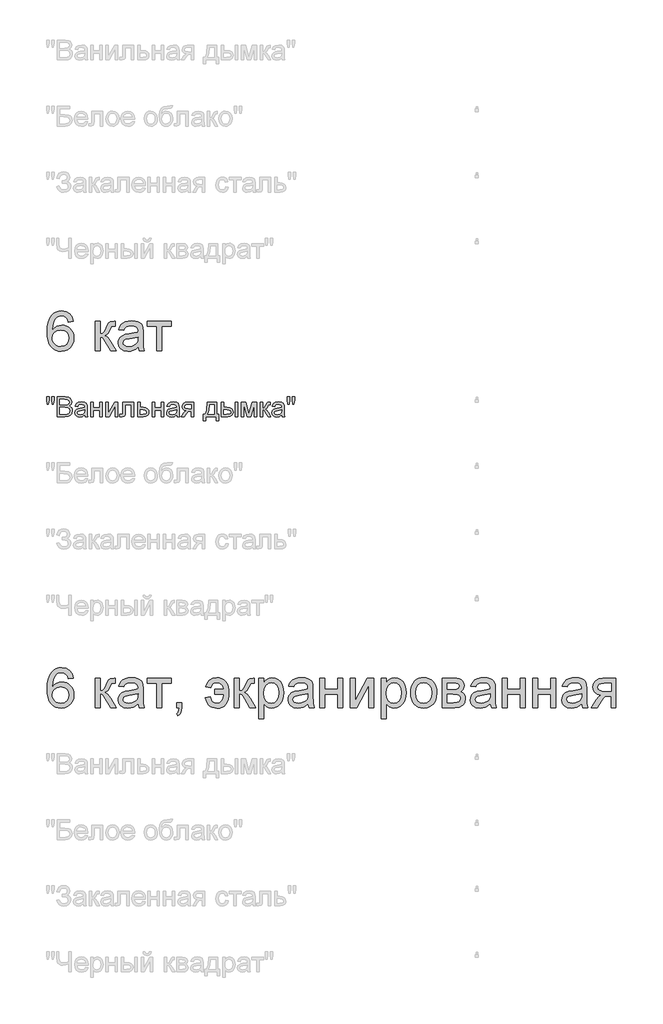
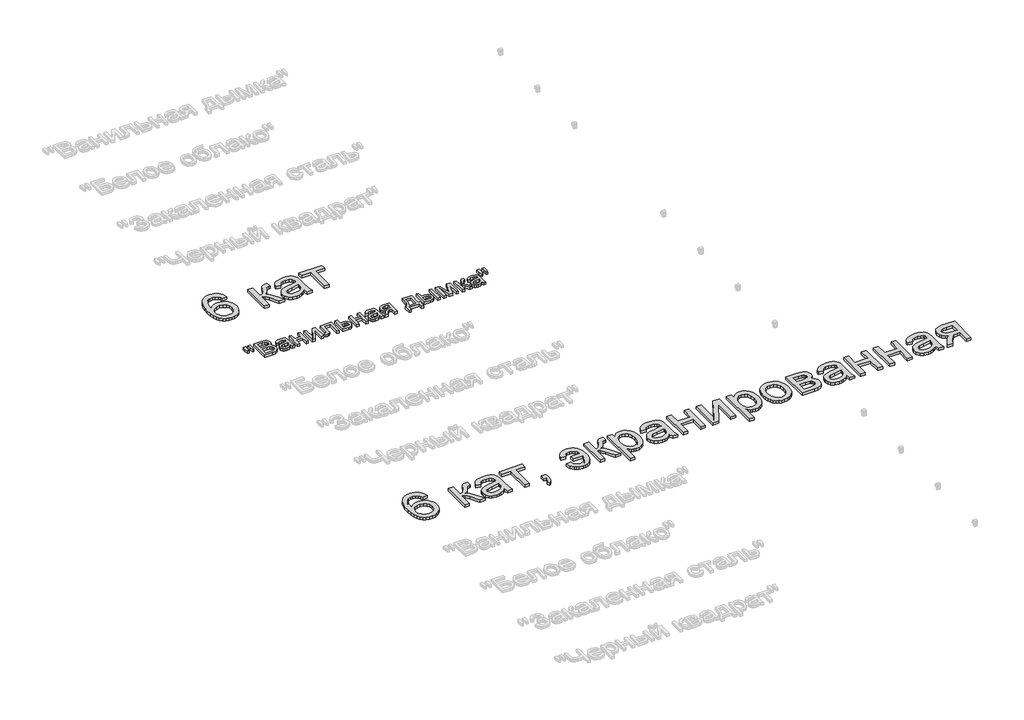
# One storey, part 73 of 168: 3 proxies.
"""IFC4 building model written with IfcOpenShell, lengths in millimetres."""

import ifcopenshell
import ifcopenshell.guid

model = None  # the IFC model being written
_history = None  # IfcOwnerHistory: only IFC2X3 demands one
_inside = {}  # id of a spatial element -> (the spatial element, [elements in it])
_under = {}  # id of a project, library or spatial element -> (it, [spatial elements below it])
_declared = {}  # id of a project -> (the project, [libraries it declares])
_typed = {}  # id of a type object -> (the type object, [elements of that type])
_made_of = {}  # id of a material, layer set ... -> (it, [elements and type objects made of it])


def new_model(schema):
    """Start an empty IFC model of exactly this schema.

    Asked for "IFC4X3", IfcOpenShell would pick the latest addendum, in which some entities
    have other attributes; the version numbers below select the first issue.
    IFC2X3 requires an IfcOwnerHistory on every rooted entity: one is made here for all.
    """
    global model, _history
    if schema == "IFC4X3":
        model = ifcopenshell.file(schema_version=(4, 3, 0, 0))
    else:
        model = ifcopenshell.file(schema=schema)
    _inside.clear()
    _under.clear()
    _declared.clear()
    _typed.clear()
    _made_of.clear()
    _history = None
    if model.schema == "IFC2X3":
        org = make("IfcOrganization", Name="unknown")
        user = make(
            "IfcPersonAndOrganization",
            ThePerson=make("IfcPerson", FamilyName="unknown"),
            TheOrganization=org,
        )
        app = make(
            "IfcApplication",
            ApplicationDeveloper=org,
            Version="unknown",
            ApplicationFullName="unknown",
            ApplicationIdentifier="unknown",
        )
        _history = make(
            "IfcOwnerHistory",
            OwningUser=user,
            OwningApplication=app,
            ChangeAction="ADDED",
            CreationDate=0,
        )
    return model


def make(cls, **values):
    """One entity of the class cls with the attributes given. An attribute that is None is left unset."""
    return model.create_entity(
        cls, **{name: value for name, value in values.items() if value is not None}
    )


def rooted(cls, **values):
    """An entity with a GlobalId (a new one), such as an element, a storey or a relation."""
    return make(cls, GlobalId=ifcopenshell.guid.new(), OwnerHistory=_history, **values)


def si_unit(unit_type, name, prefix=None):
    """IfcSIUnit, for example si_unit("LENGTHUNIT", "METRE", prefix="MILLI")."""
    return make("IfcSIUnit", UnitType=unit_type, Prefix=prefix, Name=name)


def assignment(units):
    """IfcUnitAssignment: the units of a project."""
    return None if units is None else make("IfcUnitAssignment", Units=units)


def point(xyz):
    """IfcCartesianPoint."""
    return None if xyz is None else make("IfcCartesianPoint", Coordinates=xyz)


def direction(xyz):
    """IfcDirection."""
    return None if xyz is None else make("IfcDirection", DirectionRatios=xyz)


def frame(location, z_axis=None, x_axis=None):
    """IfcAxis2Placement3D, a coordinate frame: its origin and axes. An axis left out is left unset."""
    return make(
        "IfcAxis2Placement3D",
        Location=point(location),
        Axis=direction(z_axis),
        RefDirection=direction(x_axis),
    )


def origin():
    """The frame at (0, 0, 0) with its axes left unset."""
    return frame((0.0, 0.0, 0.0))


def origin_with_axes():
    """The frame at (0, 0, 0) with the z axis (0, 0, 1) and the x axis (1, 0, 0) written out."""
    return frame((0.0, 0.0, 0.0), z_axis=(0.0, 0.0, 1.0), x_axis=(1.0, 0.0, 0.0))


def place(relative_to, where):
    """IfcLocalPlacement: puts the frame where relative to a parent placement (None: the world)."""
    return make(
        "IfcLocalPlacement", PlacementRelTo=relative_to, RelativePlacement=where
    )


def context(
    kind, dimensions, precision=None, world=None, true_north=None, identifier=None
):
    """IfcGeometricRepresentationContext, for example the 3D "Model" context."""
    return make(
        "IfcGeometricRepresentationContext",
        ContextIdentifier=identifier,
        ContextType=kind,
        CoordinateSpaceDimension=dimensions,
        Precision=precision,
        WorldCoordinateSystem=world,
        TrueNorth=true_north,
    )


def project(units=None, contexts=None):
    """IfcProject with its units and contexts."""
    return rooted(
        "IfcProject",
        Name="project",
        RepresentationContexts=contexts,
        UnitsInContext=assignment(units),
    )


def spatial(cls, under=None, at=None, **own):
    """A site, building, storey or space (cls), placed at a placement, below another one or the project."""
    s = rooted(cls, ObjectPlacement=at, **own)
    if under is not None:
        _under.setdefault(under.id(), (under, []))[1].append(s)
    return s


def polyline(points):
    """IfcPolyline through the points."""
    return make("IfcPolyline", Points=[point(p) for p in points])


def outline(outer, holes=None, kind="AREA"):
    """IfcArbitraryClosedProfileDef: a profile drawn as a closed curve; with holes, ...WithVoids."""
    if holes is None:
        return make("IfcArbitraryClosedProfileDef", ProfileType=kind, OuterCurve=outer)
    return make(
        "IfcArbitraryProfileDefWithVoids",
        ProfileType=kind,
        OuterCurve=outer,
        InnerCurves=holes,
    )


def extrude(swept, where, along, depth):
    """IfcExtrudedAreaSolid: the profile swept, set in the frame where, extruded along a direction by depth."""
    return make(
        "IfcExtrudedAreaSolid",
        SweptArea=swept,
        Position=where,
        ExtrudedDirection=direction(along),
        Depth=depth,
    )


def shape(context_of_items, identifier, shape_type, items):
    """IfcShapeRepresentation: the items that make up one representation, for example the "Body"."""
    return make(
        "IfcShapeRepresentation",
        ContextOfItems=context_of_items,
        RepresentationIdentifier=identifier,
        RepresentationType=shape_type,
        Items=items,
    )


def made_of(thing, what):
    """Note that an element or type object is made of a material, layer set ...; save() writes the relation."""
    if what is not None:
        _made_of.setdefault(what.id(), (what, []))[1].append(thing)
    return thing


def element(
    cls,
    number,
    at=None,
    inside=None,
    cuts=None,
    type_object=None,
    material=None,
    context=None,
    identifier="Body",
    shape_type=None,
    held_by="IfcProductDefinitionShape",
    body=None,
    shapes=None,
    **own,
):
    """One element of the class cls, such as IfcWall. Its Tag is "e" and its number.

    at: its placement. inside: the storey or other place that contains it. cuts: it is an
    opening in that element (IfcRelVoidsElement). A single representation is given by context,
    identifier, shape_type and body (its items); several are given by shapes. held_by: the class
    of the entity that holds the representations. save() writes the other relations.
    """
    e = rooted(cls, Tag="e%d" % number, ObjectPlacement=at, **own)
    if body is not None:
        shapes = [shape(context, identifier, shape_type, body)]
    if shapes is not None:
        e.Representation = make(held_by, Representations=shapes)
    if inside is not None:
        _inside.setdefault(inside.id(), (inside, []))[1].append(e)
    if cuts is not None:
        rooted(
            "IfcRelVoidsElement", RelatingBuildingElement=cuts, RelatedOpeningElement=e
        )
    if type_object is not None:
        _typed.setdefault(type_object.id(), (type_object, []))[1].append(e)
    return made_of(e, material)


def aggregate(whole, parts):
    """IfcRelAggregates: a whole, such as a stair, and the parts it consists of."""
    return rooted("IfcRelAggregates", RelatingObject=whole, RelatedObjects=parts)


def save(model, path):
    """Write the relations noted so far, then the file.

    IfcRelAggregates (storeys below a building ...), IfcRelContainedInSpatialStructure (elements
    in a storey), IfcRelDefinesByType, IfcRelAssociatesMaterial and IfcRelDeclares: one each for
    every whole, place, type object, material and project.
    """
    for whole, parts in _under.values():
        aggregate(whole, parts)
    for where, things in _inside.values():
        rooted(
            "IfcRelContainedInSpatialStructure",
            RelatedElements=things,
            RelatingStructure=where,
        )
    for kind, things in _typed.values():
        rooted("IfcRelDefinesByType", RelatedObjects=things, RelatingType=kind)
    for what, things in _made_of.values():
        rooted("IfcRelAssociatesMaterial", RelatedObjects=things, RelatingMaterial=what)
    for by, libraries in _declared.values():
        rooted("IfcRelDeclares", RelatingContext=by, RelatedDefinitions=libraries)
    model.write(path)


model = new_model("IFC4")

# Units and contexts
model_context = context("Model", 3, world=origin())
ifc_project = project(units=[si_unit("LENGTHUNIT", "METRE", prefix="MILLI")], contexts=[model_context])

# Site, building, storey
site = spatial("IfcSite", under=ifc_project)
building = spatial("IfcBuilding", under=site)
storey = spatial("IfcBuildingStorey", under=building, Name="Этаж 01", Elevation=0.0)

# Proxies
placement = place(None, origin())
element("IfcBuildingElementProxy", 1, Name="300 мм Arial 2", ObjectType="300 мм Arial 2", at=placement, inside=storey, context=model_context, shape_type="SweptSolid", body=[
    extrude(outline(polyline([(60378.0323041, -37145.5444894), (60340.3611878, -37150.253379), (60334.2911349, -37131.5833677), (60326.0873664, -37118.8362566), (60308.9992477, -37107.0824268), (60288.3426737, -37103.1644836), (60270.8314907, -37105.445352), (60254.3503773, -37112.2879571), (60240.1961176, -37126.6997342), (60228.6354259, -37146.5377708), (60220.8271305, -37174.59797), (60217.9300598, -37213.6762349), (60233.0408128, -37196.0454903), (60251.149804, -37183.6202759), (60271.245358, -37176.253439), (60292.3157992, -37173.7978267), (60310.4155934, -37175.4762883), (60327.117436, -37180.5116731), (60342.421327, -37188.9039811), (60356.3272664, -37200.6532123), (60367.8833596, -37215.0603909), (60376.1377118, -37231.4265412), (60381.0903232, -37249.7516631), (60382.7411936, -37270.0357566), (60379.6325908, -37297.0107039), (60370.3067822, -37322.0174825), (60355.5363201, -37343.2258795), (60336.0937567, -37358.805682), (60312.8620087, -37368.379811), (60286.7239929, -37371.5711873), (60264.2670964, -37369.4558658), (60243.9853021, -37363.1099014), (60225.8786102, -37352.533294), (60209.9470205, -37337.7260437), (60196.9584868, -37318.0627511), (60187.6809628, -37292.9180167), (60182.1144483, -37262.2918406), (60180.2589435, -37226.1842228), (60182.3190827, -37185.7034077), (60188.4995002, -37151.1546899), (60198.8001961, -37122.5380692), (60213.2211703, -37099.8535456), (60228.8515565, -37084.8209676), (60246.9743433, -37074.0834119), (60267.5895306, -37067.6408784), (60290.6971185, -37065.4933673), (60323.7513157, -37070.8092621), (60350.2204253, -37086.7569466), (60368.7616778, -37112.085622), (60378.0323041, -37145.5444894)]), holes=[polyline([(60217.9300598, -37269.4471454), (60220.1097606, -37286.1397909), (60226.6488631, -37302.0782784), (60236.8024062, -37315.7818827), (60249.8254288, -37325.7698789), (60265.543187, -37331.8675229), (60283.7809369, -37333.900071), (60308.6405628, -37329.6878221), (60328.1842938, -37317.0510756), (60340.8486314, -37297.1854478), (60345.0700773, -37271.2865554), (60340.9038137, -37246.4269296), (60328.405023, -37227.4718098), (60308.5301982, -37215.4696597), (60282.2358326, -37211.468943), (60257.4129949, -37215.4696597), (60236.6552534, -37227.4718098), (60222.6113582, -37245.9670771), (60217.9300598, -37269.4471454)])]), origin_with_axes(), (0.0, 0.0, 1.0), 20.0),
    extrude(outline(polyline([(60542.843438, -37145.5444894), (60580.5145543, -37145.5444894), (60580.5145543, -37239.7222802), (60595.8368394, -37238.030023), (60605.7512591, -37232.9532515), (60614.5252447, -37219.7094997), (60626.4262273, -37193.5163016), (60643.6063164, -37159.4872171), (60658.7630546, -37148.413969), (60686.3174161, -37145.5444894), (60693.5279032, -37145.5444894), (60693.5279032, -37183.4363349), (60683.3743601, -37183.2156057), (60664.9802603, -37187.1887313), (60652.0308141, -37211.9839778), (60636.8372877, -37238.8025752), (60615.5369202, -37251.9359624), (60627.4746909, -37257.2380617), (60639.3020971, -37266.5960599), (60662.6258156, -37297.4797534), (60702.9456823, -37366.8622977), (60660.124218, -37366.8622977), (60620.6136917, -37298.9512814), (60600.748064, -37270.2196976), (60591.4590436, -37265.0049703), (60580.5145543, -37263.2667279), (60580.5145543, -37366.8622977), (60542.843438, -37366.8622977), (60542.843438, -37145.5444894)])), origin_with_axes(), (0.0, 0.0, 1.0), 20.0),
    extrude(outline(polyline([(60867.7568161, -37338.6089605), (60849.7581895, -37354.0416102), (60831.226134, -37364.139971), (60811.7375853, -37369.7133832), (60790.8694791, -37371.5711873), (60759.3879774, -37367.101421), (60736.1654264, -37353.6921223), (60721.8456198, -37333.3298539), (60717.0723509, -37308.0011785), (60718.8749726, -37292.3845878), (60724.282838, -37278.2027369), (60732.6245622, -37266.0626311), (60743.2287607, -37256.5712756), (60769.6058998, -37244.2104405), (60802.2002446, -37238.5450578), (60840.7174894, -37232.5853695), (60867.5360869, -37225.5956116), (60867.7568161, -37217.2079021), (60865.163248, -37200.3956949), (60857.3825438, -37189.3960233), (60839.9817255, -37181.229043), (60815.738302, -37178.5067162), (60793.2975003, -37180.318535), (60777.6257273, -37185.7539915), (60766.9387553, -37195.806367), (60759.4523567, -37211.468943), (60721.7812404, -37206.7600534), (60728.3203429, -37186.1586617), (60738.0784128, -37169.9718539), (60751.9659581, -37157.5926248), (60770.8934868, -37148.413969), (60794.0424613, -37142.7301922), (60820.5943443, -37140.8355999), (60846.0609754, -37142.509463), (60866.2484999, -37147.5310522), (60881.4696175, -37155.0818302), (60892.0370278, -37164.3432594), (60899.0451798, -37175.7935865), (60903.5885224, -37189.9110581), (60905.4279324, -37222.8732848), (60905.4279324, -37269.741451), (60907.3409188, -37335.1876579), (60914.8457115, -37366.8622977), (60877.1745952, -37366.8622977), (60867.7568161, -37338.6089605)]), holes=[polyline([(60867.7568161, -37263.2667279), (60806.9827105, -37274.8182225), (60774.5723067, -37280.9250637), (60759.8938151, -37290.8578775), (60754.7434672, -37305.3524281), (60757.5485674, -37316.5544349), (60765.963868, -37325.7330907), (60779.8054281, -37331.8583259), (60798.8893066, -37333.900071), (60819.1228163, -37331.6467937), (60837.0018813, -37324.8869621), (60851.4964319, -37314.9265571), (60861.5763986, -37303.0715598), (60866.0461648, -37290.8578775), (60867.5360869, -37273.9353058), (60867.7568161, -37263.2667279)])]), origin_with_axes(), (0.0, 0.0, 1.0), 20.0),
    extrude(outline(polyline([(60938.3901592, -37145.5444894), (61117.3279616, -37145.5444894), (61117.3279616, -37183.2156057), (61046.6946185, -37183.2156057), (61046.6946185, -37366.8622977), (61009.0235022, -37366.8622977), (61009.0235022, -37183.2156057), (60938.3901592, -37183.2156057), (60938.3901592, -37145.5444894)])), origin_with_axes(), (0.0, 0.0, 1.0), 20.0),
])
element("IfcBuildingElementProxy", 2, Name="300 мм Arial 2", ObjectType="300 мм Arial 2", at=placement, inside=storey, context=model_context, shape_type="SweptSolid", body=[
    extrude(outline(polyline([(60378.0323041, -39845.5444894), (60340.3611878, -39850.253379), (60334.2911349, -39831.5833677), (60326.0873664, -39818.8362566), (60308.9992477, -39807.0824268), (60288.3426737, -39803.1644836), (60270.8314907, -39805.445352), (60254.3503773, -39812.2879571), (60240.1961176, -39826.6997342), (60228.6354259, -39846.5377708), (60220.8271305, -39874.59797), (60217.9300598, -39913.6762349), (60233.0408128, -39896.0454903), (60251.149804, -39883.6202759), (60271.245358, -39876.253439), (60292.3157992, -39873.7978267), (60310.4155934, -39875.4762883), (60327.117436, -39880.5116731), (60342.421327, -39888.9039811), (60356.3272664, -39900.6532123), (60367.8833596, -39915.0603909), (60376.1377118, -39931.4265412), (60381.0903232, -39949.7516631), (60382.7411936, -39970.0357566), (60379.6325908, -39997.0107039), (60370.3067822, -40022.0174825), (60355.5363201, -40043.2258795), (60336.0937567, -40058.805682), (60312.8620087, -40068.379811), (60286.7239929, -40071.5711873), (60264.2670964, -40069.4558658), (60243.9853021, -40063.1099014), (60225.8786102, -40052.533294), (60209.9470205, -40037.7260437), (60196.9584868, -40018.0627511), (60187.6809628, -39992.9180167), (60182.1144483, -39962.2918406), (60180.2589435, -39926.1842228), (60182.3190827, -39885.7034077), (60188.4995002, -39851.1546899), (60198.8001961, -39822.5380692), (60213.2211703, -39799.8535456), (60228.8515565, -39784.8209676), (60246.9743433, -39774.0834119), (60267.5895306, -39767.6408784), (60290.6971185, -39765.4933673), (60323.7513157, -39770.8092621), (60350.2204253, -39786.7569466), (60368.7616778, -39812.085622), (60378.0323041, -39845.5444894)]), holes=[polyline([(60217.9300598, -39969.4471454), (60220.1097606, -39986.1397909), (60226.6488631, -40002.0782784), (60236.8024062, -40015.7818827), (60249.8254288, -40025.7698789), (60265.543187, -40031.8675229), (60283.7809369, -40033.900071), (60308.6405628, -40029.6878221), (60328.1842938, -40017.0510756), (60340.8486314, -39997.1854478), (60345.0700773, -39971.2865554), (60340.9038137, -39946.4269296), (60328.405023, -39927.4718098), (60308.5301982, -39915.4696597), (60282.2358326, -39911.468943), (60257.4129949, -39915.4696597), (60236.6552534, -39927.4718098), (60222.6113582, -39945.9670771), (60217.9300598, -39969.4471454)])]), origin_with_axes(), (0.0, 0.0, 1.0), 20.0),
    extrude(outline(polyline([(60542.843438, -39845.5444894), (60580.5145543, -39845.5444894), (60580.5145543, -39939.7222802), (60595.8368394, -39938.030023), (60605.7512591, -39932.9532515), (60614.5252447, -39919.7094997), (60626.4262273, -39893.5163016), (60643.6063164, -39859.4872171), (60658.7630546, -39848.413969), (60686.3174161, -39845.5444894), (60693.5279032, -39845.5444894), (60693.5279032, -39883.4363349), (60683.3743601, -39883.2156057), (60664.9802603, -39887.1887313), (60652.0308141, -39911.9839778), (60636.8372877, -39938.8025752), (60615.5369202, -39951.9359624), (60627.4746909, -39957.2380617), (60639.3020971, -39966.5960599), (60662.6258156, -39997.4797534), (60702.9456823, -40066.8622977), (60660.124218, -40066.8622977), (60620.6136917, -39998.9512814), (60600.748064, -39970.2196976), (60591.4590436, -39965.0049703), (60580.5145543, -39963.2667279), (60580.5145543, -40066.8622977), (60542.843438, -40066.8622977), (60542.843438, -39845.5444894)])), origin_with_axes(), (0.0, 0.0, 1.0), 20.0),
    extrude(outline(polyline([(60867.7568161, -40038.6089605), (60849.7581895, -40054.0416102), (60831.226134, -40064.139971), (60811.7375853, -40069.7133832), (60790.8694791, -40071.5711873), (60759.3879774, -40067.101421), (60736.1654264, -40053.6921223), (60721.8456198, -40033.3298539), (60717.0723509, -40008.0011785), (60718.8749726, -39992.3845878), (60724.282838, -39978.2027369), (60732.6245622, -39966.0626311), (60743.2287607, -39956.5712756), (60769.6058998, -39944.2104405), (60802.2002446, -39938.5450578), (60840.7174894, -39932.5853695), (60867.5360869, -39925.5956116), (60867.7568161, -39917.2079021), (60865.163248, -39900.3956949), (60857.3825438, -39889.3960233), (60839.9817255, -39881.229043), (60815.738302, -39878.5067162), (60793.2975003, -39880.318535), (60777.6257273, -39885.7539915), (60766.9387553, -39895.806367), (60759.4523567, -39911.468943), (60721.7812404, -39906.7600534), (60728.3203429, -39886.1586617), (60738.0784128, -39869.9718539), (60751.9659581, -39857.5926248), (60770.8934868, -39848.413969), (60794.0424613, -39842.7301922), (60820.5943443, -39840.8355999), (60846.0609754, -39842.509463), (60866.2484999, -39847.5310522), (60881.4696175, -39855.0818302), (60892.0370278, -39864.3432594), (60899.0451798, -39875.7935865), (60903.5885224, -39889.9110581), (60905.4279324, -39922.8732848), (60905.4279324, -39969.741451), (60907.3409188, -40035.1876579), (60914.8457115, -40066.8622977), (60877.1745952, -40066.8622977), (60867.7568161, -40038.6089605)]), holes=[polyline([(60867.7568161, -39963.2667279), (60806.9827105, -39974.8182225), (60774.5723067, -39980.9250637), (60759.8938151, -39990.8578775), (60754.7434672, -40005.3524281), (60757.5485674, -40016.5544349), (60765.963868, -40025.7330907), (60779.8054281, -40031.8583259), (60798.8893066, -40033.900071), (60819.1228163, -40031.6467937), (60837.0018813, -40024.8869621), (60851.4964319, -40014.9265571), (60861.5763986, -40003.0715598), (60866.0461648, -39990.8578775), (60867.5360869, -39973.9353058), (60867.7568161, -39963.2667279)])]), origin_with_axes(), (0.0, 0.0, 1.0), 20.0),
    extrude(outline(polyline([(60938.3901592, -39845.5444894), (61117.3279616, -39845.5444894), (61117.3279616, -39883.2156057), (61046.6946185, -39883.2156057), (61046.6946185, -40066.8622977), (61009.0235022, -40066.8622977), (61009.0235022, -39883.2156057), (60938.3901592, -39883.2156057), (60938.3901592, -39845.5444894)])), origin_with_axes(), (0.0, 0.0, 1.0), 20.0),
    extrude(outline(polyline([(61159.7079675, -40066.8622977), (61159.7079675, -40029.1911814), (61197.3790838, -40029.1911814), (61197.3790838, -40066.8622977), (61195.6868266, -40088.4109856), (61190.6100551, -40105.3795426), (61181.8544636, -40118.3933682), (61169.1257465, -40128.0778617), (61159.7079675, -40113.9511931), (61167.8749478, -40107.1269821), (61173.5403305, -40097.6908089), (61178.4699492, -40066.8622977), (61159.7079675, -40066.8622977)])), origin_with_axes(), (0.0, 0.0, 1.0), 20.0),
    extrude(outline(polyline([(61446.9502293, -39930.3045011), (61517.5835724, -39930.3045011), (61511.7802339, -39909.4363949), (61500.550636, -39892.8909022), (61484.6305427, -39882.1027627), (61464.7557179, -39878.5067162), (61447.6124169, -39880.861161), (61434.2215123, -39887.9244953), (61424.583004, -39899.6967191), (61418.6968921, -39916.1778325), (61381.0257758, -39911.468943), (61389.8089584, -39883.1880146), (61406.88788, -39860.590863), (61431.398018, -39845.7744157), (61462.4748495, -39840.8355999), (61482.8302201, -39842.7577833), (61500.927715, -39848.5243336), (61516.7673342, -39858.1352507), (61530.3490776, -39871.5905347), (61541.2452824, -39888.4119389), (61549.0282859, -39908.1212168), (61553.698088, -39930.7183684), (61555.2546887, -39956.2033936), (61554.2637066, -39981.4125073), (61550.1135378, -40004.0648412), (61542.8041824, -40024.1603951), (61532.3356404, -40041.6991693), (61519.0482026, -40055.7614585), (61503.2821598, -40065.427558), (61485.0375121, -40070.6974675), (61464.3142595, -40071.5711873), (61430.9105743, -40066.0621544), (61416.8574821, -40059.1758633), (61404.5702235, -40049.5350558), (61386.1025473, -40024.0132423), (61376.3168862, -39991.5200651), (61413.9880025, -39986.8111756), (61419.9384938, -40007.4125673), (61430.2115985, -40022.1278471), (61444.8073167, -40030.957015), (61463.7256483, -40033.900071), (61485.0076217, -40029.7797926), (61501.0288826, -40017.4189576), (61511.8630073, -39996.8175659), (61517.5835724, -39967.9756174), (61446.9502293, -39967.9756174), (61446.9502293, -39930.3045011)])), origin_with_axes(), (0.0, 0.0, 1.0), 20.0),
    extrude(outline(polyline([(61597.6346945, -39845.5444894), (61635.3058108, -39845.5444894), (61635.3058108, -39939.7222802), (61650.6280959, -39938.030023), (61660.5425157, -39932.9532515), (61669.3165013, -39919.7094997), (61681.2174838, -39893.5163016), (61698.397573, -39859.4872171), (61713.5543112, -39848.413969), (61741.1086726, -39845.5444894), (61748.3191597, -39845.5444894), (61748.3191597, -39883.4363349), (61738.1656167, -39883.2156057), (61719.7715169, -39887.1887313), (61706.8220707, -39911.9839778), (61691.6285443, -39938.8025752), (61670.3281768, -39951.9359624), (61682.2659475, -39957.2380617), (61694.0933537, -39966.5960599), (61717.4170722, -39997.4797534), (61757.7369388, -40066.8622977), (61714.9154746, -40066.8622977), (61675.4049483, -39998.9512814), (61655.5393206, -39970.2196976), (61646.2503002, -39965.0049703), (61635.3058108, -39963.2667279), (61635.3058108, -40066.8622977), (61597.6346945, -40066.8622977), (61597.6346945, -39845.5444894)])), origin_with_axes(), (0.0, 0.0, 1.0), 20.0),
    extrude(outline(polyline([(61781.2813865, -40151.6223094), (61781.2813865, -39845.5444894), (61818.9525028, -39845.5444894), (61818.9525028, -39882.4798418), (61831.2397615, -39864.2604859), (61844.9985481, -39851.2466604), (61861.0382031, -39843.438365), (61880.1680668, -39840.8355999), (61905.643895, -39844.4776316), (61927.9191498, -39855.4037269), (61946.0557322, -39872.9516981), (61959.115543, -39896.4593576), (61967.0066118, -39924.2160541), (61969.636968, -39954.5111364), (61966.6663209, -39986.7284021), (61957.7543796, -40015.5427594), (61943.1862526, -40039.4918773), (61923.2470485, -40057.1134249), (61900.0244975, -40067.9567467), (61875.6063301, -40071.5711873), (61858.2882852, -40069.1523632), (61842.8280443, -40061.8958908), (61829.5934895, -40050.9422044), (61818.9525028, -40037.4317381), (61818.9525028, -40151.6223094), (61781.2813865, -40151.6223094)]), holes=[polyline([(61818.9525028, -39957.9692272), (61823.0267959, -39991.7407943), (61835.2496752, -40015.3588184), (61853.28509, -40029.2647578), (61874.7969897, -40033.900071), (61896.6583773, -40029.0992109), (61915.1536446, -40014.6966308), (61927.7627999, -39990.214084), (61931.9658517, -39955.173324), (61927.8639675, -39921.5856978), (61915.5583148, -39897.63658), (61897.5504911, -39883.2891821), (61876.3420941, -39878.5067162), (61855.0509236, -39883.5926848), (61836.3533212, -39898.8505905), (61823.3027074, -39923.8021869), (61818.9525028, -39957.9692272)])]), origin_with_axes(), (0.0, 0.0, 1.0), 20.0),
    extrude(outline(polyline([(62153.28366, -40038.6089605), (62135.2850334, -40054.0416102), (62116.7529779, -40064.139971), (62097.2644292, -40069.7133832), (62076.396323, -40071.5711873), (62044.9148213, -40067.101421), (62021.6922704, -40053.6921223), (62007.3724637, -40033.3298539), (62002.5991948, -40008.0011785), (62004.4018166, -39992.3845878), (62009.8096819, -39978.2027369), (62018.1514062, -39966.0626311), (62028.7556047, -39956.5712756), (62055.1327437, -39944.2104405), (62087.7270885, -39938.5450578), (62126.2443334, -39932.5853695), (62153.0629308, -39925.5956116), (62153.28366, -39917.2079021), (62150.690092, -39900.3956949), (62142.9093878, -39889.3960233), (62125.5085694, -39881.229043), (62101.2651459, -39878.5067162), (62078.8243442, -39880.318535), (62063.1525712, -39885.7539915), (62052.4655993, -39895.806367), (62044.9792007, -39911.468943), (62007.3080844, -39906.7600534), (62013.8471868, -39886.1586617), (62023.6052567, -39869.9718539), (62037.4928021, -39857.5926248), (62056.4203307, -39848.413969), (62079.5693053, -39842.7301922), (62106.1211883, -39840.8355999), (62131.5878194, -39842.509463), (62151.7753439, -39847.5310522), (62166.9964614, -39855.0818302), (62177.5638717, -39864.3432594), (62184.5720237, -39875.7935865), (62189.1153664, -39889.9110581), (62190.9547763, -39922.8732848), (62190.9547763, -39969.741451), (62192.8677627, -40035.1876579), (62200.3725554, -40066.8622977), (62162.7014391, -40066.8622977), (62153.28366, -40038.6089605)]), holes=[polyline([(62153.28366, -39963.2667279), (62092.5095544, -39974.8182225), (62060.0991507, -39980.9250637), (62045.4206591, -39990.8578775), (62040.2703111, -40005.3524281), (62043.0754113, -40016.5544349), (62051.490712, -40025.7330907), (62065.332272, -40031.8583259), (62084.4161505, -40033.900071), (62104.6496603, -40031.6467937), (62122.5287252, -40024.8869621), (62137.0232759, -40014.9265571), (62147.1032425, -40003.0715598), (62151.5730088, -39990.8578775), (62153.0629308, -39973.9353058), (62153.28366, -39963.2667279)])]), origin_with_axes(), (0.0, 0.0, 1.0), 20.0),
    extrude(outline(polyline([(62242.7525613, -39845.5444894), (62280.4236776, -39845.5444894), (62280.4236776, -39930.3045011), (62379.3103579, -39930.3045011), (62379.3103579, -39845.5444894), (62416.9814742, -39845.5444894), (62416.9814742, -40066.8622977), (62379.3103579, -40066.8622977), (62379.3103579, -39967.9756174), (62280.4236776, -39967.9756174), (62280.4236776, -40066.8622977), (62242.7525613, -40066.8622977), (62242.7525613, -39845.5444894)])), origin_with_axes(), (0.0, 0.0, 1.0), 20.0),
    extrude(outline(polyline([(62473.4881486, -39845.5444894), (62511.1592649, -39845.5444894), (62511.1592649, -40014.3287488), (62603.7183749, -39845.5444894), (62652.4259511, -39845.5444894), (62652.4259511, -40066.8622977), (62614.7548348, -40066.8622977), (62614.7548348, -39899.1081079), (62522.784336, -40066.8622977), (62473.4881486, -40066.8622977), (62473.4881486, -39845.5444894)])), origin_with_axes(), (0.0, 0.0, 1.0), 20.0),
    extrude(outline(polyline([(62708.9326256, -40151.6223094), (62708.9326256, -39845.5444894), (62746.6037419, -39845.5444894), (62746.6037419, -39882.4798418), (62758.8910005, -39864.2604859), (62772.6497871, -39851.2466604), (62788.6894421, -39843.438365), (62807.8193059, -39840.8355999), (62833.295134, -39844.4776316), (62855.5703888, -39855.4037269), (62873.7069712, -39872.9516981), (62886.766782, -39896.4593576), (62894.6578508, -39924.2160541), (62897.2882071, -39954.5111364), (62894.31756, -39986.7284021), (62885.4056186, -40015.5427594), (62870.8374916, -40039.4918773), (62850.8982875, -40057.1134249), (62827.6757365, -40067.9567467), (62803.2575691, -40071.5711873), (62785.9395242, -40069.1523632), (62770.4792833, -40061.8958908), (62757.2447286, -40050.9422044), (62746.6037419, -40037.4317381), (62746.6037419, -40151.6223094), (62708.9326256, -40151.6223094)]), holes=[polyline([(62746.6037419, -39957.9692272), (62750.678035, -39991.7407943), (62762.9009142, -40015.3588184), (62780.9363291, -40029.2647578), (62802.4482287, -40033.900071), (62824.3096163, -40029.0992109), (62842.8048836, -40014.6966308), (62855.414039, -39990.214084), (62859.6170908, -39955.173324), (62855.5152065, -39921.5856978), (62843.2095538, -39897.63658), (62825.2017301, -39883.2891821), (62803.9933331, -39878.5067162), (62782.7021626, -39883.5926848), (62764.0045602, -39898.8505905), (62750.9539465, -39923.8021869), (62746.6037419, -39957.9692272)])]), origin_with_axes(), (0.0, 0.0, 1.0), 20.0),
    extrude(outline(polyline([(62930.2504339, -39956.2033936), (62932.2875804, -39927.5407876), (62938.39902, -39902.8421102), (62948.5847528, -39882.1073612), (62962.8447786, -39865.3365408), (62977.2013735, -39854.6173791), (62993.0478904, -39846.9608351), (63010.3843294, -39842.3669087), (63029.2106906, -39840.8355999), (63049.993724, -39842.7003018), (63068.7855962, -39848.2944073), (63085.5863071, -39857.6179167), (63100.3958566, -39870.6708297), (63112.4830794, -39887.0116881), (63121.11681, -39906.1990334), (63126.2970483, -39928.2328656), (63128.0237945, -39953.1131848), (63124.9703739, -39991.1705772), (63115.8101122, -40020.1412843), (63100.8097239, -40041.837125), (63080.2359233, -40058.069918), (63055.7993618, -40068.19587), (63029.2106906, -40071.5711873), (63008.1241544, -40069.7133832), (62989.1575383, -40064.139971), (62972.3108422, -40054.8509506), (62957.5840661, -40041.8463221), (62945.625602, -40025.3468146), (62937.0838419, -40005.5731573), (62931.9587859, -39982.5253503), (62930.2504339, -39956.2033936)]), holes=[polyline([(62967.9215502, -39956.1298172), (62972.2809518, -39990.2232811), (62985.3591567, -40014.5126898), (63005.0408435, -40029.0532257), (63029.2106906, -40033.900071), (63053.270173, -40029.0256345), (63072.9150716, -40014.4023252), (63085.9932765, -39989.7910197), (63090.3526782, -39954.9525948), (63085.9656854, -39921.8524123), (63072.804707, -39897.8940973), (63053.1322173, -39883.3535615), (63029.2106906, -39878.5067162), (63005.0408435, -39883.3351674), (62985.3591567, -39897.820521), (62972.2809518, -39922.0547474), (62967.9215502, -39956.1298172)])]), origin_with_axes(), (0.0, 0.0, 1.0), 20.0),
    extrude(outline(polyline([(63170.4038003, -39845.5444894), (63253.3979784, -39845.5444894), (63280.0786201, -39846.8044853), (63298.9049812, -39850.5844728), (63312.7557383, -39857.7213835), (63324.5095681, -39869.0521489), (63332.5385926, -39883.813414), (63335.2149341, -39901.2418235), (63333.5962534, -39915.2857187), (63328.740211, -39927.3982334), (63320.628413, -39937.6345499), (63309.2424653, -39946.0498505), (63323.1851929, -39953.87654), (63334.5527465, -39966.4673013), (63342.1127216, -39982.828853), (63344.6327132, -40001.9679138), (63338.2499606, -40030.6811035), (63323.0748283, -40050.8962191), (63299.052134, -40062.8707781), (63266.1266954, -40066.8622977), (63170.4038003, -40066.8622977), (63170.4038003, -39845.5444894)]), holes=[polyline([(63208.0749166, -39930.3045011), (63245.3045745, -39930.3045011), (63276.0227211, -39928.3915147), (63290.9587301, -39920.7395692), (63295.8975459, -39914.4119989), (63297.5438178, -39906.9072062), (63294.6559442, -39895.6684113), (63285.9923232, -39888.4395301), (63270.3389443, -39884.5215868), (63246.4817969, -39883.2156057), (63208.0749166, -39883.2156057), (63208.0749166, -39930.3045011)]), polyline([(63208.0749166, -40029.1911814), (63254.2808952, -40029.1911814), (63279.4624178, -40027.4897272), (63295.2629495, -40022.3853645), (63303.7426295, -40013.1055412), (63306.9615969, -39998.877705), (63305.3521132, -39989.4507289), (63300.523662, -39980.7411227), (63293.1108398, -39973.9261087), (63283.748243, -39970.1829094), (63250.6020753, -39967.9756174), (63208.0749166, -39967.9756174), (63208.0749166, -40029.1911814)])]), origin_with_axes(), (0.0, 0.0, 1.0), 20.0),
    extrude(outline(polyline([(63532.9882947, -40038.6089605), (63514.9896681, -40054.0416102), (63496.4576126, -40064.139971), (63476.9690639, -40069.7133832), (63456.1009578, -40071.5711873), (63424.619456, -40067.101421), (63401.3969051, -40053.6921223), (63387.0770984, -40033.3298539), (63382.3038295, -40008.0011785), (63384.1064513, -39992.3845878), (63389.5143166, -39978.2027369), (63397.8560409, -39966.0626311), (63408.4602394, -39956.5712756), (63434.8373784, -39944.2104405), (63467.4317232, -39938.5450578), (63505.9489681, -39932.5853695), (63532.7675656, -39925.5956116), (63532.9882947, -39917.2079021), (63530.3947267, -39900.3956949), (63522.6140225, -39889.3960233), (63505.2132041, -39881.229043), (63480.9697806, -39878.5067162), (63458.5289789, -39880.318535), (63442.8572059, -39885.7539915), (63432.170234, -39895.806367), (63424.6838354, -39911.468943), (63387.0127191, -39906.7600534), (63393.5518215, -39886.1586617), (63403.3098914, -39869.9718539), (63417.1974368, -39857.5926248), (63436.1249654, -39848.413969), (63459.27394, -39842.7301922), (63485.825823, -39840.8355999), (63511.2924541, -39842.509463), (63531.4799786, -39847.5310522), (63546.7010961, -39855.0818302), (63557.2685064, -39864.3432594), (63564.2766584, -39875.7935865), (63568.8200011, -39889.9110581), (63570.6594111, -39922.8732848), (63570.6594111, -39969.741451), (63572.5723974, -40035.1876579), (63580.0771901, -40066.8622977), (63542.4060738, -40066.8622977), (63532.9882947, -40038.6089605)]), holes=[polyline([(63532.9882947, -39963.2667279), (63472.2141891, -39974.8182225), (63439.8037854, -39980.9250637), (63425.1252938, -39990.8578775), (63419.9749458, -40005.3524281), (63422.780046, -40016.5544349), (63431.1953467, -40025.7330907), (63445.0369068, -40031.8583259), (63464.1207853, -40033.900071), (63484.354295, -40031.6467937), (63502.23336, -40024.8869621), (63516.7279106, -40014.9265571), (63526.8078772, -40003.0715598), (63531.2776435, -39990.8578775), (63532.7675656, -39973.9353058), (63532.9882947, -39963.2667279)])]), origin_with_axes(), (0.0, 0.0, 1.0), 20.0),
    extrude(outline(polyline([(63622.457196, -39845.5444894), (63660.1283123, -39845.5444894), (63660.1283123, -39930.3045011), (63759.0149926, -39930.3045011), (63759.0149926, -39845.5444894), (63796.6861089, -39845.5444894), (63796.6861089, -40066.8622977), (63759.0149926, -40066.8622977), (63759.0149926, -39967.9756174), (63660.1283123, -39967.9756174), (63660.1283123, -40066.8622977), (63622.457196, -40066.8622977), (63622.457196, -39845.5444894)])), origin_with_axes(), (0.0, 0.0, 1.0), 20.0),
    extrude(outline(polyline([(63853.1927833, -39845.5444894), (63890.8638997, -39845.5444894), (63890.8638997, -39930.3045011), (63989.75058, -39930.3045011), (63989.75058, -39845.5444894), (64027.4216963, -39845.5444894), (64027.4216963, -40066.8622977), (63989.75058, -40066.8622977), (63989.75058, -39967.9756174), (63890.8638997, -39967.9756174), (63890.8638997, -40066.8622977), (63853.1927833, -40066.8622977), (63853.1927833, -39845.5444894)])), origin_with_axes(), (0.0, 0.0, 1.0), 20.0),
    extrude(outline(polyline([(64225.1950569, -40038.6089605), (64207.1964303, -40054.0416102), (64188.6643748, -40064.139971), (64169.1758261, -40069.7133832), (64148.3077199, -40071.5711873), (64116.8262181, -40067.101421), (64093.6036672, -40053.6921223), (64079.2838605, -40033.3298539), (64074.5105916, -40008.0011785), (64076.3132134, -39992.3845878), (64081.7210788, -39978.2027369), (64090.062803, -39966.0626311), (64100.6670015, -39956.5712756), (64127.0441406, -39944.2104405), (64159.6384853, -39938.5450578), (64198.1557302, -39932.5853695), (64224.9743277, -39925.5956116), (64225.1950569, -39917.2079021), (64222.6014888, -39900.3956949), (64214.8207846, -39889.3960233), (64197.4199662, -39881.229043), (64173.1765428, -39878.5067162), (64150.735741, -39880.318535), (64135.0639681, -39885.7539915), (64124.3769961, -39895.806367), (64116.8905975, -39911.468943), (64079.2194812, -39906.7600534), (64085.7585837, -39886.1586617), (64095.5166536, -39869.9718539), (64109.4041989, -39857.5926248), (64128.3317275, -39848.413969), (64151.4807021, -39842.7301922), (64178.0325851, -39840.8355999), (64203.4992162, -39842.509463), (64223.6867407, -39847.5310522), (64238.9078582, -39855.0818302), (64249.4752686, -39864.3432594), (64256.4834206, -39875.7935865), (64261.0267632, -39889.9110581), (64262.8661732, -39922.8732848), (64262.8661732, -39969.741451), (64264.7791596, -40035.1876579), (64272.2839523, -40066.8622977), (64234.6128359, -40066.8622977), (64225.1950569, -40038.6089605)]), holes=[polyline([(64225.1950569, -39963.2667279), (64164.4209513, -39974.8182225), (64132.0105475, -39980.9250637), (64117.3320559, -39990.8578775), (64112.181708, -40005.3524281), (64114.9868082, -40016.5544349), (64123.4021088, -40025.7330907), (64137.2436689, -40031.8583259), (64156.3275474, -40033.900071), (64176.5610571, -40031.6467937), (64194.4401221, -40024.8869621), (64208.9346727, -40014.9265571), (64219.0146394, -40003.0715598), (64223.4844056, -39990.8578775), (64224.9743277, -39973.9353058), (64225.1950569, -39963.2667279)])]), origin_with_axes(), (0.0, 0.0, 1.0), 20.0),
    extrude(outline(polyline([(64484.1839815, -39845.5444894), (64484.1839815, -40066.8622977), (64446.5128652, -40066.8622977), (64446.5128652, -39982.102286), (64425.9850498, -39982.102286), (64398.0260182, -39986.884752), (64386.8607997, -39997.3142065), (64371.7592438, -40019.0376384), (64341.7400729, -40066.8622977), (64298.1828447, -40066.8622977), (64336.0011138, -40006.3824977), (64352.7029564, -39984.67746), (64368.0804238, -39975.0389517), (64342.3286841, -39967.1478829), (64324.22889, -39952.1566916), (64313.5235239, -39932.2174875), (64309.9550686, -39909.4823802), (64314.829505, -39883.6938523), (64329.4528143, -39863.2764016), (64353.3099617, -39849.9774675), (64385.8859124, -39845.5444894), (64484.1839815, -39845.5444894)]), holes=[polyline([(64446.5128652, -39883.2156057), (64396.8487958, -39883.2156057), (64371.1982237, -39885.3953066), (64356.6392937, -39891.934409), (64349.8794621, -39901.3981734), (64347.6261849, -39912.3518598), (64350.9463199, -39926.7084546), (64360.9067249, -39936.6688596), (64379.3100217, -39942.4905922), (64407.9588321, -39944.4311697), (64446.5128652, -39944.4311697), (64446.5128652, -39883.2156057)])]), origin_with_axes(), (0.0, 0.0, 1.0), 20.0),
])
element("IfcBuildingElementProxy", 3, Name="150", ObjectType="150", at=placement, inside=storey, context=model_context, shape_type="SweptSolid", body=[
    extrude(outline(polyline([(60180.1485789, -37770.3300622), (60175.550054, -37741.2305964), (60175.550054, -37716.1778325), (60194.3856121, -37716.1778325), (60194.3856121, -37741.2305964), (60190.2653338, -37770.3300622), (60180.1485789, -37770.3300622)])), origin_with_axes(), (0.0, 0.0, 1.0), 20.0),
    extrude(outline(polyline([(60217.7093306, -37770.3300622), (60213.2211703, -37741.2305964), (60213.2211703, -37716.1778325), (60232.0567284, -37716.1778325), (60232.0567284, -37741.2305964), (60227.6421445, -37770.3300622), (60217.7093306, -37770.3300622)])), origin_with_axes(), (0.0, 0.0, 1.0), 20.0),
    extrude(outline(polyline([(60257.9556209, -37866.8622977), (60257.9556209, -37716.1778325), (60315.4555767, -37716.1778325), (60343.6169435, -37720.6108106), (60353.0807078, -37726.2348066), (60360.2452096, -37734.2408385), (60366.2600803, -37753.517855), (60361.2017028, -37771.1210085), (60345.9162059, -37784.4567308), (60356.5893823, -37790.030143), (60364.4758526, -37798.509823), (60369.3456905, -37809.3347507), (60370.9689698, -37821.9439061), (60366.5359918, -37842.19581), (60355.5547142, -37856.6167842), (60339.1655713, -37864.2687297), (60315.0141183, -37866.8622977), (60257.9556209, -37866.8622977)]), holes=[polyline([(60276.791179, -37777.3933965), (60311.1881456, -37777.3933965), (60331.2745025, -37775.7747157), (60343.3594261, -37768.8033519), (60347.4245221, -37756.5344874), (60343.6353376, -37744.2472287), (60332.7828187, -37736.9815593), (60308.5761834, -37735.0133907), (60276.791179, -37735.0133907), (60276.791179, -37777.3933965)]), polyline([(60276.791179, -37848.0267396), (60315.4187885, -37848.0267396), (60329.3983043, -37847.2909756), (60341.2257105, -37843.1890913), (60349.061597, -37834.819776), (60352.1334117, -37822.1278471), (60348.5281681, -37807.4861437), (60336.8479148, -37798.7489463), (60313.5793786, -37796.2289547), (60276.791179, -37796.2289547), (60276.791179, -37848.0267396)])]), origin_with_axes(), (0.0, 0.0, 1.0), 20.0),
    extrude(outline(polyline([(60465.1467606, -37852.7356291), (60446.8814195, -37865.5011344), (60426.7030921, -37869.2167425), (60410.9623412, -37866.9818594), (60399.3510657, -37860.27721), (60392.1911624, -37850.0960758), (60389.804528, -37837.4317381), (60393.4097715, -37822.5325173), (60402.8827329, -37811.7167867), (60416.0713024, -37805.5363691), (60432.3684748, -37802.7036778), (60465.036396, -37796.2289547), (60465.1467606, -37792.0350999), (60463.8499765, -37783.6289963), (60459.9596244, -37778.1291605), (60451.2592153, -37774.0456704), (60439.1375035, -37772.684507), (60420.0812162, -37776.3081446), (60410.9945309, -37789.1656204), (60392.1589727, -37786.8111756), (60400.3075589, -37768.4170758), (60416.7150959, -37757.6381334), (60441.5655247, -37753.8489488), (60464.3926025, -37757.196675), (60477.2868664, -37765.6027786), (60483.0626137, -37778.3866779), (60483.9823187, -37794.8677913), (60483.9823187, -37818.3018744), (60484.9388119, -37851.0249778), (60488.6912083, -37866.8622977), (60469.8556501, -37866.8622977), (60465.1467606, -37852.7356291)]), holes=[polyline([(60465.1467606, -37815.0645128), (60434.7597078, -37820.8402601), (60418.5545059, -37823.8936807), (60411.2152601, -37828.8600876), (60408.6400861, -37836.1073629), (60414.2502865, -37846.2976942), (60430.7130058, -37850.3811843), (60449.7692932, -37845.8746299), (60462.0565518, -37834.9669288), (60465.036396, -37820.3988017), (60465.1467606, -37815.0645128)])]), origin_with_axes(), (0.0, 0.0, 1.0), 20.0),
    extrude(outline(polyline([(60509.8812112, -37756.2033936), (60528.7167693, -37756.2033936), (60528.7167693, -37798.5833994), (60578.1601095, -37798.5833994), (60578.1601095, -37756.2033936), (60596.9956676, -37756.2033936), (60596.9956676, -37866.8622977), (60578.1601095, -37866.8622977), (60578.1601095, -37817.4189576), (60528.7167693, -37817.4189576), (60528.7167693, -37866.8622977), (60509.8812112, -37866.8622977), (60509.8812112, -37756.2033936)])), origin_with_axes(), (0.0, 0.0, 1.0), 20.0),
    extrude(outline(polyline([(60625.2490049, -37756.2033936), (60644.084563, -37756.2033936), (60644.084563, -37840.5955233), (60690.364118, -37756.2033936), (60714.7179061, -37756.2033936), (60714.7179061, -37866.8622977), (60695.8823479, -37866.8622977), (60695.8823479, -37782.9852028), (60649.8970985, -37866.8622977), (60625.2490049, -37866.8622977), (60625.2490049, -37756.2033936)])), origin_with_axes(), (0.0, 0.0, 1.0), 20.0),
    extrude(outline(polyline([(60752.3890224, -37756.2033936), (60837.1490341, -37756.2033936), (60837.1490341, -37866.7519331), (60818.3134759, -37866.7519331), (60818.3134759, -37775.0389517), (60771.2245806, -37775.0389517), (60771.2245806, -37827.830018), (60769.9553877, -37852.1838061), (60762.9840239, -37862.4661079), (60746.5029105, -37866.8622977), (60731.1990195, -37865.9058045), (60731.1990195, -37848.0267396), (60739.6235172, -37848.0267396), (60748.1399854, -37846.8679113), (60751.5428938, -37843.1890913), (60752.3890224, -37826.7631603), (60752.3890224, -37756.2033936)])), origin_with_axes(), (0.0, 0.0, 1.0), 20.0),
    extrude(outline(polyline([(60865.4023713, -37756.2033936), (60884.2379295, -37756.2033936), (60884.2379295, -37796.2289547), (60905.9429672, -37796.2289547), (60924.7601312, -37798.587998), (60938.6844648, -37805.6651278), (60947.2929034, -37816.8901272), (60950.162383, -37831.692779), (60947.7205663, -37845.1710556), (60940.395116, -37856.5432078), (60927.6985887, -37864.2825252), (60909.1435405, -37866.8622977), (60865.4023713, -37866.8622977), (60865.4023713, -37756.2033936)]), holes=[polyline([(60884.2379295, -37848.0267396), (60901.8226888, -37848.0267396), (60924.539402, -37844.0720081), (60929.6299692, -37839.0090322), (60931.3268249, -37831.7295672), (60926.3052356, -37820.1412843), (60918.2348244, -37816.3337057), (60904.066769, -37815.0645128), (60884.2379295, -37815.0645128), (60884.2379295, -37848.0267396)])]), origin_with_axes(), (0.0, 0.0, 1.0), 20.0),
    extrude(outline(polyline([(60973.7068307, -37756.2033936), (60992.5423889, -37756.2033936), (60992.5423889, -37798.5833994), (61041.985729, -37798.5833994), (61041.985729, -37756.2033936), (61060.8212872, -37756.2033936), (61060.8212872, -37866.8622977), (61041.985729, -37866.8622977), (61041.985729, -37817.4189576), (60992.5423889, -37817.4189576), (60992.5423889, -37866.8622977), (60973.7068307, -37866.8622977), (60973.7068307, -37756.2033936)])), origin_with_axes(), (0.0, 0.0, 1.0), 20.0),
    extrude(outline(polyline([(61159.7079675, -37852.7356291), (61141.4426264, -37865.5011344), (61121.264299, -37869.2167425), (61105.5235481, -37866.9818594), (61093.9122726, -37860.27721), (61086.7523693, -37850.0960758), (61084.3657349, -37837.4317381), (61087.9709784, -37822.5325173), (61097.4439398, -37811.7167867), (61110.6325093, -37805.5363691), (61126.9296817, -37802.7036778), (61159.5976029, -37796.2289547), (61159.7079675, -37792.0350999), (61158.4111834, -37783.6289963), (61154.5208313, -37778.1291605), (61145.8204221, -37774.0456704), (61133.6987104, -37772.684507), (61114.6424231, -37776.3081446), (61105.5557378, -37789.1656204), (61086.7201796, -37786.8111756), (61094.8687658, -37768.4170758), (61111.2763028, -37757.6381334), (61136.1267316, -37753.8489488), (61158.9538094, -37757.196675), (61171.8480733, -37765.6027786), (61177.6238206, -37778.3866779), (61178.5435256, -37794.8677913), (61178.5435256, -37818.3018744), (61179.5000188, -37851.0249778), (61183.2524152, -37866.8622977), (61164.416857, -37866.8622977), (61159.7079675, -37852.7356291)]), holes=[polyline([(61159.7079675, -37815.0645128), (61129.3209147, -37820.8402601), (61113.1157128, -37823.8936807), (61105.776467, -37828.8600876), (61103.201293, -37836.1073629), (61108.8114934, -37846.2976942), (61125.2742127, -37850.3811843), (61144.3305001, -37845.8746299), (61156.6177587, -37834.9669288), (61159.5976029, -37820.3988017), (61159.7079675, -37815.0645128)])]), origin_with_axes(), (0.0, 0.0, 1.0), 20.0),
    extrude(outline(polyline([(61289.2024298, -37756.2033936), (61289.2024298, -37866.8622977), (61270.3668716, -37866.8622977), (61270.3668716, -37824.4822919), (61260.1029639, -37824.4822919), (61246.1234481, -37826.8735249), (61232.9900609, -37842.949968), (61217.9804755, -37866.8622977), (61196.2018614, -37866.8622977), (61215.1109959, -37836.6223977), (61223.4619172, -37825.7698789), (61231.1506509, -37820.9506247), (61218.2747811, -37817.0050903), (61209.224884, -37809.5094947), (61203.872201, -37799.5398926), (61202.0879733, -37788.172339), (61204.5251915, -37775.278075), (61211.8368462, -37765.0693497), (61223.7654199, -37758.4198826), (61240.0533952, -37756.2033936), (61289.2024298, -37756.2033936)]), holes=[polyline([(61270.3668716, -37775.0389517), (61245.5348369, -37775.0389517), (61232.7095509, -37776.1288021), (61225.4300859, -37779.3983534), (61220.9235315, -37789.6070787), (61222.583599, -37796.7853762), (61227.5638015, -37801.7655787), (61251.0898551, -37805.6467337), (61270.3668716, -37805.6467337), (61270.3668716, -37775.0389517)])]), origin_with_axes(), (0.0, 0.0, 1.0), 20.0),
    extrude(outline(polyline([(61392.7979996, -37756.2033936), (61463.4313427, -37756.2033936), (61463.4313427, -37848.0267396), (61477.5580113, -37848.0267396), (61477.5580113, -37897.4700797), (61458.7224531, -37897.4700797), (61458.7224531, -37866.8622977), (61381.0257758, -37866.8622977), (61381.0257758, -37897.4700797), (61362.1902176, -37897.4700797), (61362.1902176, -37848.0267396), (61373.9624415, -37848.0267396), (61382.5202964, -37832.5619002), (61388.5121744, -37812.1030628), (61392.7979996, -37756.2033936)]), holes=[polyline([(61409.279113, -37775.0389517), (61404.864529, -37817.9523865), (61395.1524444, -37848.0267396), (61444.5957845, -37848.0267396), (61444.5957845, -37775.0389517), (61409.279113, -37775.0389517)])]), origin_with_axes(), (0.0, 0.0, 1.0), 20.0),
    extrude(outline(polyline([(61602.3435841, -37756.2033936), (61621.1791422, -37756.2033936), (61621.1791422, -37866.8622977), (61602.3435841, -37866.8622977), (61602.3435841, -37756.2033936)])), origin_with_axes(), (0.0, 0.0, 1.0), 20.0),
    extrude(outline(polyline([(61498.7480142, -37756.2033936), (61517.5835724, -37756.2033936), (61517.5835724, -37796.2289547), (61540.8705027, -37796.2289547), (61560.9982463, -37798.587998), (61575.9112627, -37805.6651278), (61585.1405023, -37816.8901272), (61588.2169154, -37831.692779), (61585.637143, -37845.1710556), (61577.8978255, -37856.5432078), (61564.4931253, -37864.2825252), (61544.9172046, -37866.8622977), (61498.7480142, -37866.8622977), (61498.7480142, -37756.2033936)]), holes=[polyline([(61517.5835724, -37848.0267396), (61536.9341653, -37848.0267396), (61561.9133528, -37844.0720081), (61567.5143562, -37839.0090322), (61569.3813573, -37831.7295672), (61563.8447333, -37820.1412843), (61554.9649816, -37816.3337057), (61539.3989747, -37815.0645128), (61517.5835724, -37815.0645128), (61517.5835724, -37848.0267396)])]), origin_with_axes(), (0.0, 0.0, 1.0), 20.0),
    extrude(outline(polyline([(61649.4324794, -37756.2033936), (61681.8428832, -37756.2033936), (61706.8220707, -37844.789378), (61733.7510327, -37756.2033936), (61764.8002731, -37756.2033936), (61764.8002731, -37866.8622977), (61745.964715, -37866.8622977), (61745.964715, -37777.7612785), (61718.8886001, -37866.8622977), (61694.1669301, -37866.8622977), (61668.2680376, -37773.4938474), (61668.2680376, -37866.8622977), (61649.4324794, -37866.8622977), (61649.4324794, -37756.2033936)])), origin_with_axes(), (0.0, 0.0, 1.0), 20.0),
    extrude(outline(polyline([(61793.0536104, -37756.2033936), (61811.8891685, -37756.2033936), (61811.8891685, -37803.292289), (61824.5075209, -37799.9077746), (61834.845005, -37780.1892997), (61843.4350496, -37763.1747574), (61851.0134187, -37757.6381334), (61864.7905994, -37756.2033936), (61868.395843, -37756.2033936), (61868.395843, -37775.1493163), (61863.3190714, -37775.0389517), (61854.1220216, -37777.0255145), (61847.6472984, -37789.4231377), (61840.0505352, -37802.8324365), (61829.4003515, -37809.3991301), (61841.2829399, -37816.7291788), (61852.9447992, -37832.1710256), (61873.1047325, -37866.8622977), (61851.6940004, -37866.8622977), (61831.9387372, -37832.9067896), (61822.0059234, -37818.5409977), (61811.8891685, -37815.0645128), (61811.8891685, -37866.8622977), (61793.0536104, -37866.8622977), (61793.0536104, -37756.2033936)])), origin_with_axes(), (0.0, 0.0, 1.0), 20.0),
    extrude(outline(polyline([(61955.5102994, -37852.7356291), (61937.2449584, -37865.5011344), (61917.0666309, -37869.2167425), (61901.3258801, -37866.9818594), (61889.7146046, -37860.27721), (61882.5547013, -37850.0960758), (61880.1680668, -37837.4317381), (61883.7733104, -37822.5325173), (61893.2462717, -37811.7167867), (61906.4348413, -37805.5363691), (61922.7320137, -37802.7036778), (61955.3999348, -37796.2289547), (61955.5102994, -37792.0350999), (61954.2135154, -37783.6289963), (61950.3231633, -37778.1291605), (61941.6227541, -37774.0456704), (61929.5010424, -37772.684507), (61910.444755, -37776.3081446), (61901.3580697, -37789.1656204), (61882.5225116, -37786.8111756), (61890.6710978, -37768.4170758), (61907.0786348, -37757.6381334), (61931.9290635, -37753.8489488), (61954.7561413, -37757.196675), (61967.6504053, -37765.6027786), (61973.4261526, -37778.3866779), (61974.3458576, -37794.8677913), (61974.3458576, -37818.3018744), (61975.3023508, -37851.0249778), (61979.0547471, -37866.8622977), (61960.219189, -37866.8622977), (61955.5102994, -37852.7356291)]), holes=[polyline([(61955.5102994, -37815.0645128), (61925.1232466, -37820.8402601), (61908.9180447, -37823.8936807), (61901.5787989, -37828.8600876), (61899.003625, -37836.1073629), (61904.6138254, -37846.2976942), (61921.0765447, -37850.3811843), (61940.132832, -37845.8746299), (61952.4200907, -37834.9669288), (61955.3999348, -37820.3988017), (61955.5102994, -37815.0645128)])]), origin_with_axes(), (0.0, 0.0, 1.0), 20.0),
    extrude(outline(polyline([(62000.1343854, -37770.3300622), (61995.5358605, -37741.2305964), (61995.5358605, -37716.1778325), (62014.3714187, -37716.1778325), (62014.3714187, -37741.2305964), (62010.2511403, -37770.3300622), (62000.1343854, -37770.3300622)])), origin_with_axes(), (0.0, 0.0, 1.0), 20.0),
    extrude(outline(polyline([(62037.6951372, -37770.3300622), (62033.2069768, -37741.2305964), (62033.2069768, -37716.1778325), (62052.042535, -37716.1778325), (62052.042535, -37741.2305964), (62047.627951, -37770.3300622), (62037.6951372, -37770.3300622)])), origin_with_axes(), (0.0, 0.0, 1.0), 20.0),
])

save(model, "model.ifc")
